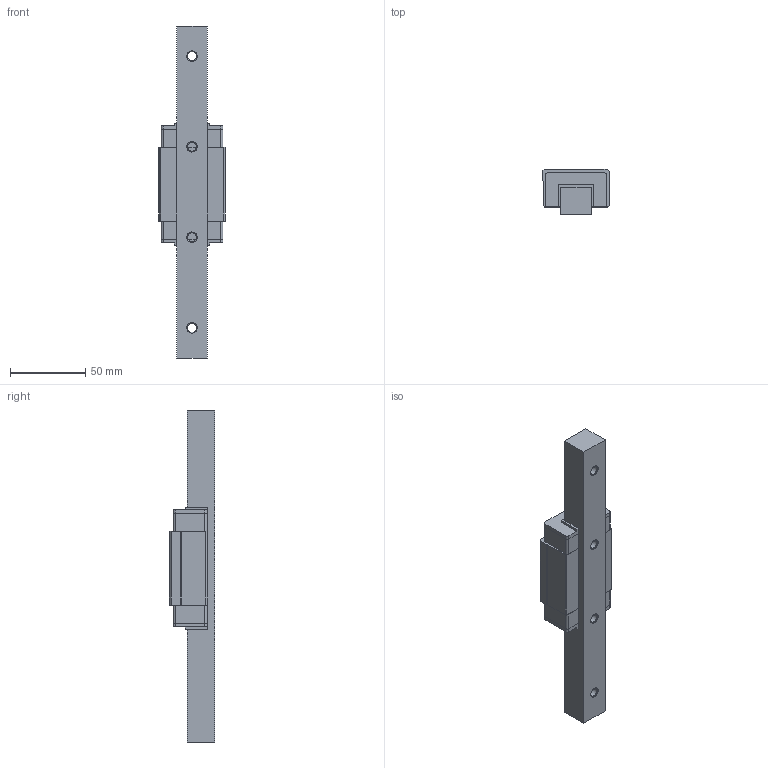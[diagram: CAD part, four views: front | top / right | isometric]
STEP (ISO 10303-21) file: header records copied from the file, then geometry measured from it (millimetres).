
FILE_DESCRIPTION( ( 'STEP File Generated from CADKEY Workshop EX' ), '1' );
FILE_NAME( 'Part1', '2004-11-06T00:11:34', ( 'CADKEY USER' ), ( 'CADKEY CORPORATION' ), 'ACIS Interop R11 SP4', 'CADKEY Workshop EX V21.05.02 (0359)', 'CK' );
FILE_SCHEMA( ( 'CONFIG_CONTROL_DESIGN' ) );
Length unit declared in the file: millimetre
Products named in the file (8): 1; 2; 3; 4; 5; 6; 7; 8
Bounding box: 44 x 30 x 220 mm (x, y, z)
Volume: 134766.4 mm3; surface area: 38783.9 mm2
Topology: 6 solids, 6 shells, 138 faces, 340 edges, 224 vertices
Faces by surface type: plane 82, cylinder 40, cone 16
Entity records: 4439 total; most frequent: DIRECTION 728, CARTESIAN_POINT 710, ORIENTED_EDGE 676, EDGE_CURVE 338, LINE 244, VECTOR 244, AXIS2_PLACEMENT_3D 242, VERTEX_POINT 220
